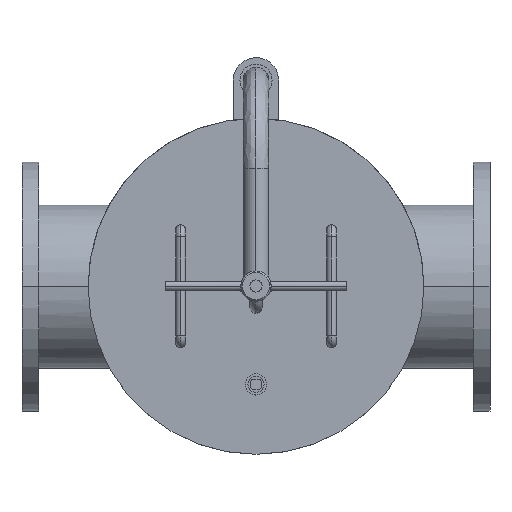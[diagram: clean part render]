
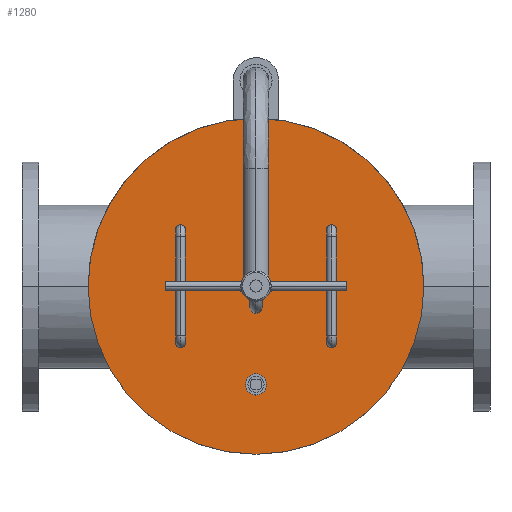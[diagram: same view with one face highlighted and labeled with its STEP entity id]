
A CAD part, top view. The second image highlights one B-rep face of the part: STEP entity #1280.
In plain terms, the highlighted planar face has unit normal (0, 0, 1).
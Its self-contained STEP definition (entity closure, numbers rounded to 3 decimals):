
#1280=ADVANCED_FACE('',(#2256,#2257,#2258,#2259,#2260,#2261,#2262,#2263),#2255,.T.);
#2255=PLANE('',#5981);
#2256=FACE_OUTER_BOUND('',#5982,.T.);
#2257=FACE_BOUND('',#5983,.T.);
#2258=FACE_BOUND('',#5984,.T.);
#2259=FACE_BOUND('',#5985,.T.);
#2260=FACE_BOUND('',#5986,.T.);
#2261=FACE_BOUND('',#5987,.T.);
#2262=FACE_BOUND('',#5988,.T.);
#2263=FACE_BOUND('',#5989,.T.);
#5978=CARTESIAN_POINT('',(-232.5,-395.381,247.));
#5979=DIRECTION('',(0.,0.,1.));
#5980=DIRECTION('',(1.,0.,0.));
#5981=AXIS2_PLACEMENT_3D('',#5978,#5979,#5980);
#5982=EDGE_LOOP('',(#8107,#8108));
#5983=EDGE_LOOP('',(#8109,#8110));
#5984=EDGE_LOOP('',(#8111,#8112));
#5985=EDGE_LOOP('',(#8113,#8114));
#5986=EDGE_LOOP('',(#8115,#8116));
#5987=EDGE_LOOP('',(#8117,#8118));
#5988=EDGE_LOOP('',(#8119,#8120));
#5989=EDGE_LOOP('',(#8121,#8122));
#8107=ORIENTED_EDGE('',*,*,#9434,.F.);
#8108=ORIENTED_EDGE('',*,*,#9435,.F.);
#8109=ORIENTED_EDGE('',*,*,#9436,.F.);
#8110=ORIENTED_EDGE('',*,*,#9437,.F.);
#8111=ORIENTED_EDGE('',*,*,#9438,.F.);
#8112=ORIENTED_EDGE('',*,*,#9439,.F.);
#8113=ORIENTED_EDGE('',*,*,#9440,.F.);
#8114=ORIENTED_EDGE('',*,*,#9441,.F.);
#8115=ORIENTED_EDGE('',*,*,#9442,.F.);
#8116=ORIENTED_EDGE('',*,*,#9443,.F.);
#8117=ORIENTED_EDGE('',*,*,#9444,.F.);
#8118=ORIENTED_EDGE('',*,*,#9445,.F.);
#8119=ORIENTED_EDGE('',*,*,#9446,.F.);
#8120=ORIENTED_EDGE('',*,*,#9447,.F.);
#8121=ORIENTED_EDGE('',*,*,#9448,.F.);
#8122=ORIENTED_EDGE('',*,*,#9449,.F.);
#9434=EDGE_CURVE('',#11747,#11748,#11749,.T.);
#9435=EDGE_CURVE('',#11748,#11747,#11755,.T.);
#9436=EDGE_CURVE('',#11761,#11762,#11763,.T.);
#9437=EDGE_CURVE('',#11762,#11761,#11769,.T.);
#9438=EDGE_CURVE('',#11775,#11776,#11777,.T.);
#9439=EDGE_CURVE('',#11776,#11775,#11783,.T.);
#9440=EDGE_CURVE('',#11789,#11790,#11791,.T.);
#9441=EDGE_CURVE('',#11790,#11789,#11797,.T.);
#9442=EDGE_CURVE('',#11803,#11804,#11805,.T.);
#9443=EDGE_CURVE('',#11804,#11803,#11811,.T.);
#9444=EDGE_CURVE('',#11817,#11818,#11819,.T.);
#9445=EDGE_CURVE('',#11818,#11817,#11825,.T.);
#9446=EDGE_CURVE('',#11831,#11832,#11833,.T.);
#9447=EDGE_CURVE('',#11832,#11831,#11839,.T.);
#9448=EDGE_CURVE('',#11845,#11846,#11847,.T.);
#9449=EDGE_CURVE('',#11846,#11845,#11853,.T.);
#11747=VERTEX_POINT('',#16464);
#11748=VERTEX_POINT('',#16465);
#11749=CIRCLE('',#16469,222.5);
#11755=CIRCLE('',#16473,222.5);
#11761=VERTEX_POINT('',#16474);
#11762=VERTEX_POINT('',#16475);
#11763=CIRCLE('',#16479,2.);
#11769=CIRCLE('',#16483,2.);
#11775=VERTEX_POINT('',#16484);
#11776=VERTEX_POINT('',#16485);
#11777=CIRCLE('',#16489,2.);
#11783=CIRCLE('',#16493,2.);
#11789=VERTEX_POINT('',#16494);
#11790=VERTEX_POINT('',#16495);
#11791=CIRCLE('',#16499,2.);
#11797=CIRCLE('',#16503,2.);
#11803=VERTEX_POINT('',#16504);
#11804=VERTEX_POINT('',#16505);
#11805=CIRCLE('',#16509,2.);
#11811=CIRCLE('',#16513,2.);
#11817=VERTEX_POINT('',#16514);
#11818=VERTEX_POINT('',#16515);
#11819=CIRCLE('',#16519,2.);
#11825=CIRCLE('',#16523,2.);
#11831=VERTEX_POINT('',#16524);
#11832=VERTEX_POINT('',#16525);
#11833=CIRCLE('',#16529,2.);
#11839=CIRCLE('',#16533,2.);
#11845=VERTEX_POINT('',#16534);
#11846=VERTEX_POINT('',#16535);
#11847=CIRCLE('',#16539,14.);
#11853=CIRCLE('',#16543,14.);
#16464=CARTESIAN_POINT('',(222.5,0.,247.));
#16465=CARTESIAN_POINT('',(-222.5,0.,247.));
#16466=CARTESIAN_POINT('',(0.,0.,247.));
#16467=DIRECTION('',(0.,0.,-1.));
#16468=DIRECTION('',(-1.,0.,0.));
#16469=AXIS2_PLACEMENT_3D('',#16466,#16467,#16468);
#16470=CARTESIAN_POINT('',(0.,0.,247.));
#16471=DIRECTION('',(0.,0.,-1.));
#16472=DIRECTION('',(-1.,0.,0.));
#16473=AXIS2_PLACEMENT_3D('',#16470,#16471,#16472);
#16474=CARTESIAN_POINT('',(22.,0.,247.));
#16475=CARTESIAN_POINT('',(18.,0.,247.));
#16476=CARTESIAN_POINT('',(20.,0.,247.));
#16477=DIRECTION('',(0.,0.,1.));
#16478=DIRECTION('',(-1.,0.,0.));
#16479=AXIS2_PLACEMENT_3D('',#16476,#16477,#16478);
#16480=CARTESIAN_POINT('',(20.,0.,247.));
#16481=DIRECTION('',(0.,0.,1.));
#16482=DIRECTION('',(-1.,0.,0.));
#16483=AXIS2_PLACEMENT_3D('',#16480,#16481,#16482);
#16484=CARTESIAN_POINT('',(-18.,0.,247.));
#16485=CARTESIAN_POINT('',(-22.,0.,247.));
#16486=CARTESIAN_POINT('',(-20.,0.,247.));
#16487=DIRECTION('',(0.,0.,1.));
#16488=DIRECTION('',(-1.,0.,0.));
#16489=AXIS2_PLACEMENT_3D('',#16486,#16487,#16488);
#16490=CARTESIAN_POINT('',(-20.,0.,247.));
#16491=DIRECTION('',(0.,0.,1.));
#16492=DIRECTION('',(-1.,0.,0.));
#16493=AXIS2_PLACEMENT_3D('',#16490,#16491,#16492);
#16494=CARTESIAN_POINT('',(-98.,75.,247.));
#16495=CARTESIAN_POINT('',(-102.,75.,247.));
#16496=CARTESIAN_POINT('',(-100.,75.,247.));
#16497=DIRECTION('',(0.,0.,1.));
#16498=DIRECTION('',(-1.,0.,0.));
#16499=AXIS2_PLACEMENT_3D('',#16496,#16497,#16498);
#16500=CARTESIAN_POINT('',(-100.,75.,247.));
#16501=DIRECTION('',(0.,0.,1.));
#16502=DIRECTION('',(-1.,0.,0.));
#16503=AXIS2_PLACEMENT_3D('',#16500,#16501,#16502);
#16504=CARTESIAN_POINT('',(-98.,-75.,247.));
#16505=CARTESIAN_POINT('',(-102.,-75.,247.));
#16506=CARTESIAN_POINT('',(-100.,-75.,247.));
#16507=DIRECTION('',(0.,0.,1.));
#16508=DIRECTION('',(-1.,0.,0.));
#16509=AXIS2_PLACEMENT_3D('',#16506,#16507,#16508);
#16510=CARTESIAN_POINT('',(-100.,-75.,247.));
#16511=DIRECTION('',(0.,0.,1.));
#16512=DIRECTION('',(-1.,0.,0.));
#16513=AXIS2_PLACEMENT_3D('',#16510,#16511,#16512);
#16514=CARTESIAN_POINT('',(102.,-75.,247.));
#16515=CARTESIAN_POINT('',(98.,-75.,247.));
#16516=CARTESIAN_POINT('',(100.,-75.,247.));
#16517=DIRECTION('',(0.,0.,1.));
#16518=DIRECTION('',(-1.,0.,0.));
#16519=AXIS2_PLACEMENT_3D('',#16516,#16517,#16518);
#16520=CARTESIAN_POINT('',(100.,-75.,247.));
#16521=DIRECTION('',(0.,0.,1.));
#16522=DIRECTION('',(-1.,0.,0.));
#16523=AXIS2_PLACEMENT_3D('',#16520,#16521,#16522);
#16524=CARTESIAN_POINT('',(102.,75.,247.));
#16525=CARTESIAN_POINT('',(98.,75.,247.));
#16526=CARTESIAN_POINT('',(100.,75.,247.));
#16527=DIRECTION('',(0.,0.,1.));
#16528=DIRECTION('',(-1.,0.,0.));
#16529=AXIS2_PLACEMENT_3D('',#16526,#16527,#16528);
#16530=CARTESIAN_POINT('',(100.,75.,247.));
#16531=DIRECTION('',(0.,0.,1.));
#16532=DIRECTION('',(-1.,0.,0.));
#16533=AXIS2_PLACEMENT_3D('',#16530,#16531,#16532);
#16534=CARTESIAN_POINT('',(-14.,-130.,247.));
#16535=CARTESIAN_POINT('',(14.,-130.,247.));
#16536=CARTESIAN_POINT('',(0.,-130.,247.));
#16537=DIRECTION('',(0.,0.,1.));
#16538=DIRECTION('',(1.,0.,0.));
#16539=AXIS2_PLACEMENT_3D('',#16536,#16537,#16538);
#16540=CARTESIAN_POINT('',(0.,-130.,247.));
#16541=DIRECTION('',(0.,0.,1.));
#16542=DIRECTION('',(1.,0.,0.));
#16543=AXIS2_PLACEMENT_3D('',#16540,#16541,#16542);
